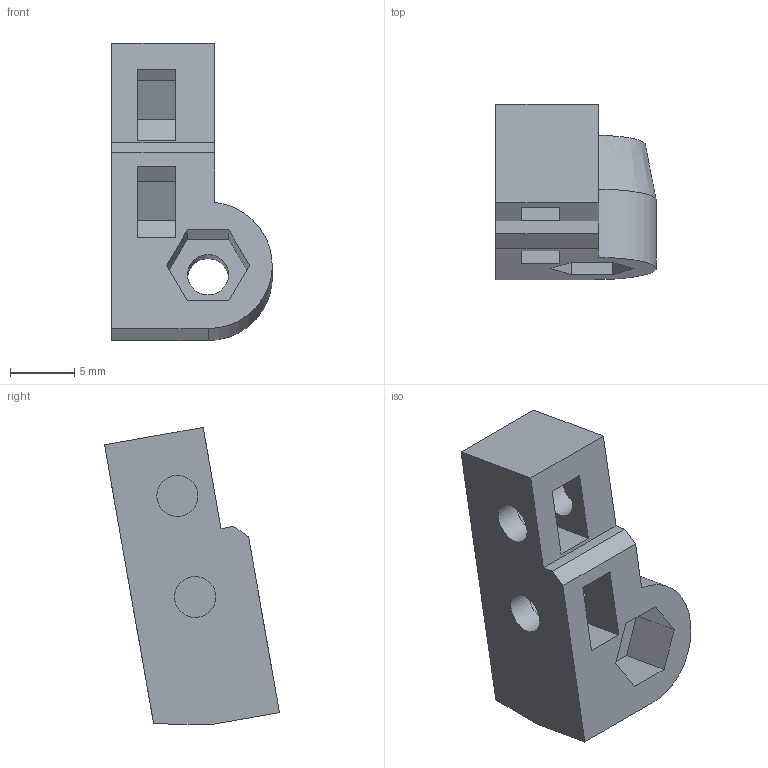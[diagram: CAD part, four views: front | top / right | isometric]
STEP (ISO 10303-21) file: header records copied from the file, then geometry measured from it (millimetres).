
FILE_DESCRIPTION(/* description */ (''),/* implementation_level */ '2;1');
FILE_NAME(/* name */ '4-26-1 Top wishbone mount left rear TPU.step',/* time_stamp */ '2025-05-10T22:18:53+02:00',/* author */ (''),/* organization */ (''),/* preprocessor_version */ 'ST-DEVELOPER v20.1',/* originating_system */ 'Autodesk Translation Framework v14.4.0.0',/* authorisation */ '');
FILE_SCHEMA (('AUTOMOTIVE_DESIGN { 1 0 10303 214 3 1 1 }'));
Length unit declared in the file: millimetre
Products named in the file (1): Top wishbone mount left rear TPU
Bounding box: 12.49 x 13.63 x 23.14 mm (x, y, z)
Volume: 1461.7 mm3; surface area: 1426.6 mm2
Topology: 1 solids, 1 shells, 40 faces, 97 edges, 64 vertices
Faces by surface type: plane 31, cylinder 7, cone 2
Full cylindrical faces by diameter (mm): 3.2 x5, 6 x1
Entity records: 1212 total; most frequent: CARTESIAN_POINT 204, ORIENTED_EDGE 194, DIRECTION 194, EDGE_CURVE 97, LINE 80, VECTOR 80, VERTEX_POINT 64, AXIS2_PLACEMENT_3D 57
